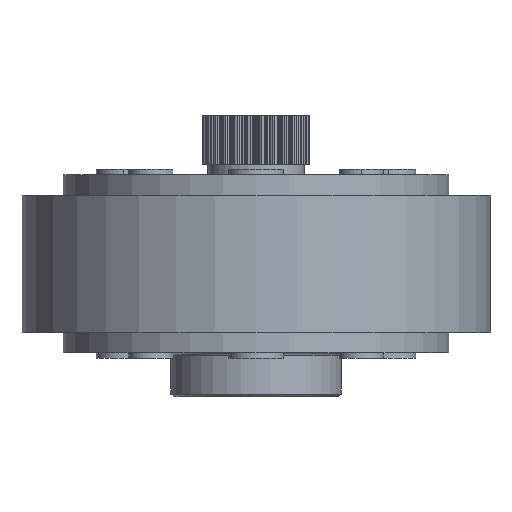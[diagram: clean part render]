
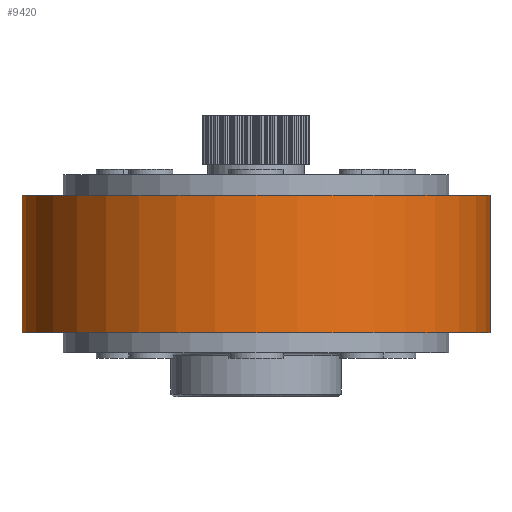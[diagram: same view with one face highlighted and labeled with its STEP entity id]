
A CAD part, front view. The second image highlights one B-rep face of the part: STEP entity #9420.
In plain terms, the highlighted cylindrical face has radius 42.5 mm (diameter 85 mm), a partial arc.
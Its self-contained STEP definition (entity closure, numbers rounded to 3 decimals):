
#176 = CARTESIAN_POINT ( 'NONE',  ( 42.5, 0., -12.5 ) ) ;
#398 = EDGE_CURVE ( 'NONE', #4485, #9543, #5935, .T. ) ;
#494 = CARTESIAN_POINT ( 'NONE',  ( -42.5, 0., -12.5 ) ) ;
#966 = DIRECTION ( 'NONE',  ( 0., 0., 1. ) ) ;
#1107 = CARTESIAN_POINT ( 'NONE',  ( 42.5, 0., 12.5 ) ) ;
#2092 = DIRECTION ( 'NONE',  ( 1., 0., 0. ) ) ;
#2574 = ORIENTED_EDGE ( 'NONE', *, *, #13343, .T. ) ;
#4272 = AXIS2_PLACEMENT_3D ( 'NONE', #6276, #966, #2092 ) ;
#4485 = VERTEX_POINT ( 'NONE', #11299 ) ;
#4618 = CARTESIAN_POINT ( 'NONE',  ( 0., 0., -12.5 ) ) ;
#4873 = ORIENTED_EDGE ( 'NONE', *, *, #14750, .T. ) ;
#5121 = LINE ( 'NONE', #14268, #13922 ) ;
#5160 = ORIENTED_EDGE ( 'NONE', *, *, #398, .F. ) ;
#5196 = AXIS2_PLACEMENT_3D ( 'NONE', #6165, #12857, #9886 ) ;
#5324 = LINE ( 'NONE', #11924, #16521 ) ;
#5935 = CIRCLE ( 'NONE', #4272, 42.5 ) ;
#6165 = CARTESIAN_POINT ( 'NONE',  ( 0., 0., 12.5 ) ) ;
#6276 = CARTESIAN_POINT ( 'NONE',  ( 0., 0., 12.5 ) ) ;
#8403 = CIRCLE ( 'NONE', #13695, 42.5 ) ;
#8673 = CYLINDRICAL_SURFACE ( 'NONE', #5196, 42.5 ) ;
#9420 = ADVANCED_FACE ( 'NONE', ( #16604 ), #8673, .T. ) ;
#9543 = VERTEX_POINT ( 'NONE', #1107 ) ;
#9886 = DIRECTION ( 'NONE',  ( -1., 0., 0. ) ) ;
#10437 = DIRECTION ( 'NONE',  ( 0., 0., -1. ) ) ;
#10574 = VERTEX_POINT ( 'NONE', #176 ) ;
#10752 = ORIENTED_EDGE ( 'NONE', *, *, #15164, .F. ) ;
#11132 = DIRECTION ( 'NONE',  ( 0., 0., 1. ) ) ;
#11215 = DIRECTION ( 'NONE',  ( 1., 0., 0. ) ) ;
#11299 = CARTESIAN_POINT ( 'NONE',  ( -42.5, 0., 12.5 ) ) ;
#11924 = CARTESIAN_POINT ( 'NONE',  ( -42.5, 0., 12.5 ) ) ;
#12107 = VERTEX_POINT ( 'NONE', #494 ) ;
#12611 = EDGE_LOOP ( 'NONE', ( #10752, #5160, #4873, #2574 ) ) ;
#12857 = DIRECTION ( 'NONE',  ( 0., 0., -1. ) ) ;
#13126 = DIRECTION ( 'NONE',  ( 0., 0., -1. ) ) ;
#13343 = EDGE_CURVE ( 'NONE', #12107, #10574, #8403, .T. ) ;
#13695 = AXIS2_PLACEMENT_3D ( 'NONE', #4618, #11132, #11215 ) ;
#13922 = VECTOR ( 'NONE', #13126, 1000. ) ;
#14268 = CARTESIAN_POINT ( 'NONE',  ( 42.5, 0., 12.5 ) ) ;
#14750 = EDGE_CURVE ( 'NONE', #4485, #12107, #5324, .T. ) ;
#15164 = EDGE_CURVE ( 'NONE', #9543, #10574, #5121, .T. ) ;
#16521 = VECTOR ( 'NONE', #10437, 1000. ) ;
#16604 = FACE_OUTER_BOUND ( 'NONE', #12611, .T. ) ;
